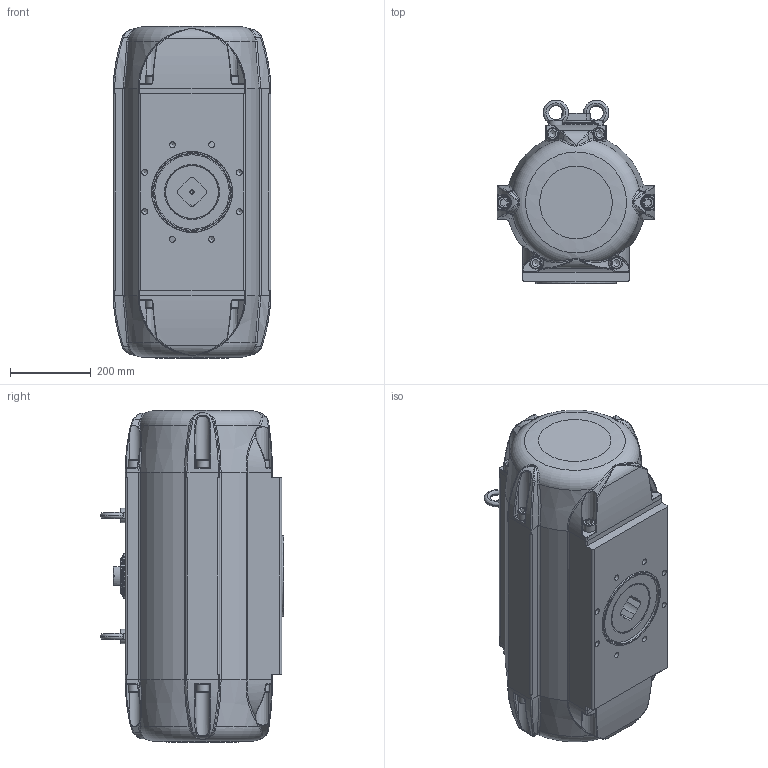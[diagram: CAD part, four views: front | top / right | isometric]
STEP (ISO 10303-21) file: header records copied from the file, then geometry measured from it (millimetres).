
FILE_DESCRIPTION(/* description */ (''),/* implementation_level */ '2;1');
FILE_NAME(/* name */ 'C:\Users\war\Desktop\BR03C_SAF_50.stp',/* time_stamp */ '2021-05-05T11:29:32+02:00',/* author */ ('war'),/* organization */ (''),/* preprocessor_version */ 'ST-DEVELOPER v18.1',/* originating_system */ 'Autodesk Inventor 2021',/* authorisation */ '');
FILE_SCHEMA (('AUTOMOTIVE_DESIGN { 1 0 10303 214 3 1 1 }'));
Products named in the file (1): ENG-051525_Shrinkwrap_1
Bounding box: 390 x 455 x 823 mm (x, y, z)
Volume: 31879809 mm3; surface area: 2710748.2 mm2
Topology: 2 solids, 2 shells, 1594 faces, 4139 edges, 2570 vertices
Faces by surface type: cylinder 521, bspline 365, plane 340, torus 269, cone 99
Full cylindrical faces by diameter (mm): 3.5 x2, 4.134 x4, 4.917 x5, 10 x2, 10.106 x1, 14.376 x8, 18.631 x2, 30 x12, 45 x4, 70 x1, 73.7 x12, 81.2 x1, 84.9 x1, 85 x1, 89.6 x3, 90 x2, 90.1 x1, 100 x1, 105 x1, 110 x1, 123.2 x1, 127 x1, 130 x1, 131.6 x3, 132 x1, 190 x1, 199.6 x1, 315 x1, 320 x2
Entity records: 71469 total; most frequent: CARTESIAN_POINT 33788, ORIENTED_EDGE 8194, DIRECTION 6658, EDGE_CURVE 4097, AXIS2_PLACEMENT_3D 2755, VERTEX_POINT 2570, EDGE_LOOP 1677, STYLED_ITEM 1596
